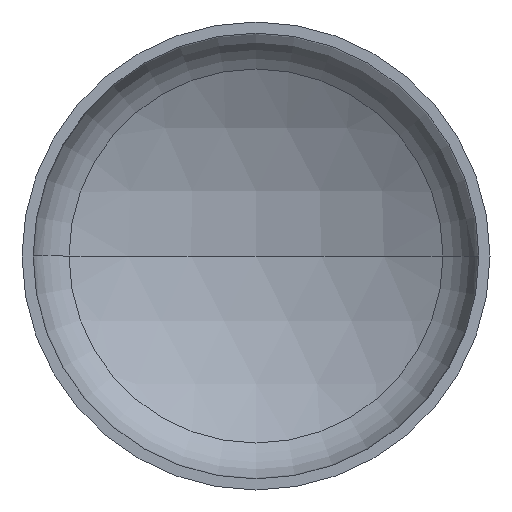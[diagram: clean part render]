
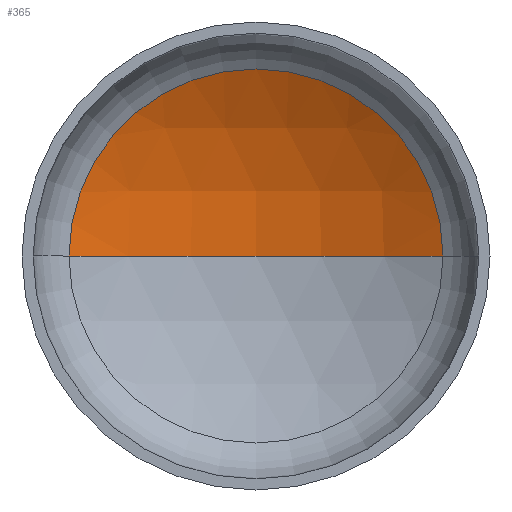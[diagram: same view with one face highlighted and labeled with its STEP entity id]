
A CAD part, front view. The second image highlights one B-rep face of the part: STEP entity #365.
In plain terms, the highlighted spherical face has radius 2560 mm.
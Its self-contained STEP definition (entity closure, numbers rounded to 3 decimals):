
#1 = AXIS2_PLACEMENT_3D ( 'NONE', #168, #177, #140 ) ;
#10 = AXIS2_PLACEMENT_3D ( 'NONE', #181, #399, #260 ) ;
#11 = AXIS2_PLACEMENT_3D ( 'NONE', #383, #333, #197 ) ;
#27 = EDGE_LOOP ( 'NONE', ( #49, #35, #136 ) ) ;
#28 = VERTEX_POINT ( 'NONE', #279 ) ;
#35 = ORIENTED_EDGE ( 'NONE', *, *, #347, .T. ) ;
#46 = AXIS2_PLACEMENT_3D ( 'NONE', #286, #385, #252 ) ;
#49 = ORIENTED_EDGE ( 'NONE', *, *, #381, .F. ) ;
#101 = VERTEX_POINT ( 'NONE', #203 ) ;
#116 = VERTEX_POINT ( 'NONE', #293 ) ;
#136 = ORIENTED_EDGE ( 'NONE', *, *, #344, .T. ) ;
#140 = DIRECTION ( 'NONE',  ( -1., 0., 0. ) ) ;
#160 = SPHERICAL_SURFACE ( 'NONE', #1, 2560. ) ;
#168 = CARTESIAN_POINT ( 'NONE',  ( 0., -1673.25, 0. ) ) ;
#177 = DIRECTION ( 'NONE',  ( 0., 0., -1. ) ) ;
#181 = CARTESIAN_POINT ( 'NONE',  ( 0., -1673.25, 0. ) ) ;
#197 = DIRECTION ( 'NONE',  ( 1., 0., 0. ) ) ;
#203 = CARTESIAN_POINT ( 'NONE',  ( 0., 886.75, 0. ) ) ;
#225 = CIRCLE ( 'NONE', #46, 2560. ) ;
#233 = FACE_OUTER_BOUND ( 'NONE', #27, .T. ) ;
#252 = DIRECTION ( 'NONE',  ( 1., 0., 0. ) ) ;
#260 = DIRECTION ( 'NONE',  ( -1., 0., 0. ) ) ;
#279 = CARTESIAN_POINT ( 'NONE',  ( -1278.763, 544.489, 0. ) ) ;
#286 = CARTESIAN_POINT ( 'NONE',  ( 0., -1673.25, 0. ) ) ;
#288 = CIRCLE ( 'NONE', #10, 2560. ) ;
#293 = CARTESIAN_POINT ( 'NONE',  ( 1278.763, 544.489, 0. ) ) ;
#333 = DIRECTION ( 'NONE',  ( 0., -1., 0. ) ) ;
#344 = EDGE_CURVE ( 'NONE', #116, #28, #361, .T. ) ;
#347 = EDGE_CURVE ( 'NONE', #101, #116, #288, .T. ) ;
#361 = CIRCLE ( 'NONE', #11, 1278.763 ) ;
#365 = ADVANCED_FACE ( 'NONE', ( #233 ), #160, .F. ) ;
#381 = EDGE_CURVE ( 'NONE', #101, #28, #225, .T. ) ;
#383 = CARTESIAN_POINT ( 'NONE',  ( 0., 544.489, 0. ) ) ;
#385 = DIRECTION ( 'NONE',  ( 0., 0., 1. ) ) ;
#399 = DIRECTION ( 'NONE',  ( 0., 0., -1. ) ) ;
